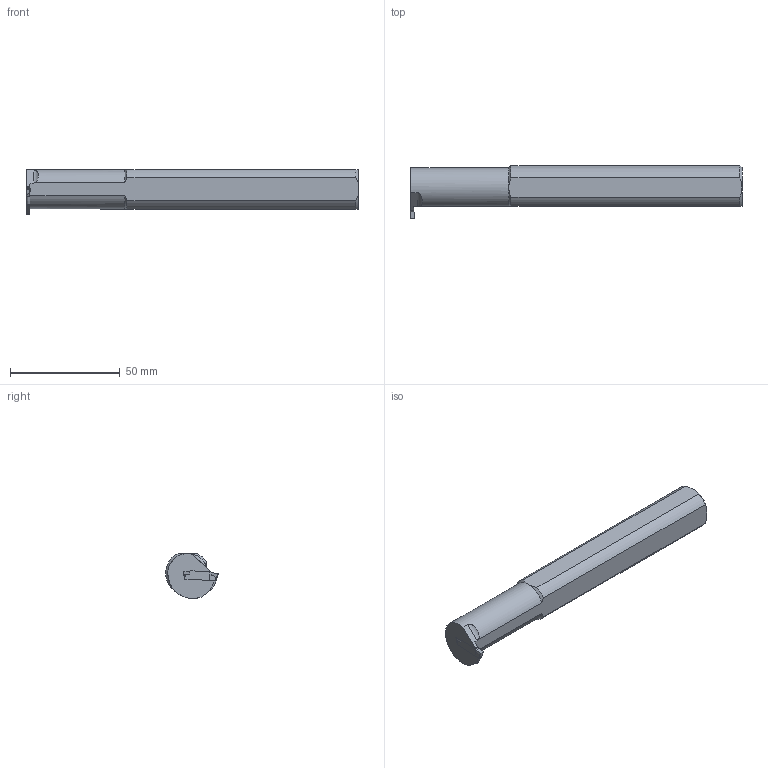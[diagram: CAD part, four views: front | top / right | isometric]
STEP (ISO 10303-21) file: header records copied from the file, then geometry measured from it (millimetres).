
FILE_DESCRIPTION(/* description */ (''),/* implementation_level */ '2;1');
FILE_NAME(/* name */ 'MGIVR2520-2-HAAS.stp',/* time_stamp */ '2021-10-15T12:30:38+09:00',/* author */ (''),/* organization */ (''),/* preprocessor_version */ 'ST-DEVELOPER v16.7',/* originating_system */ 'SIEMENS PLM Software NX 1946',/* authorisation */ '');
FILE_SCHEMA (('AUTOMOTIVE_DESIGN { 1 0 10303 214 3 1 1 1 }'));
Length unit declared in the file: millimetre
Products named in the file (1): user41A06993zsk2
Bounding box: 151.25 x 23.96 x 20.5 mm (x, y, z)
Volume: 42422.6 mm3; surface area: 9930.6 mm2
Topology: 2 solids, 2 shells, 58 faces, 154 edges, 100 vertices
Faces by surface type: plane 33, cylinder 18, cone 6, torus 1
Entity records: 2092 total; most frequent: CARTESIAN_POINT 431, ORIENTED_EDGE 308, DIRECTION 297, EDGE_CURVE 154, AXIS2_PLACEMENT_3D 103, VERTEX_POINT 100, LINE 91, VECTOR 91
